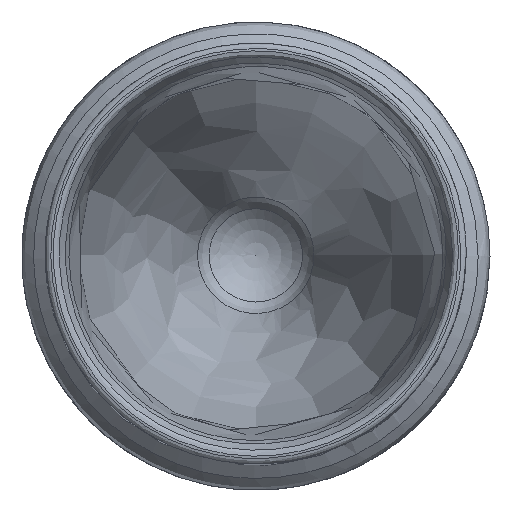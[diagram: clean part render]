
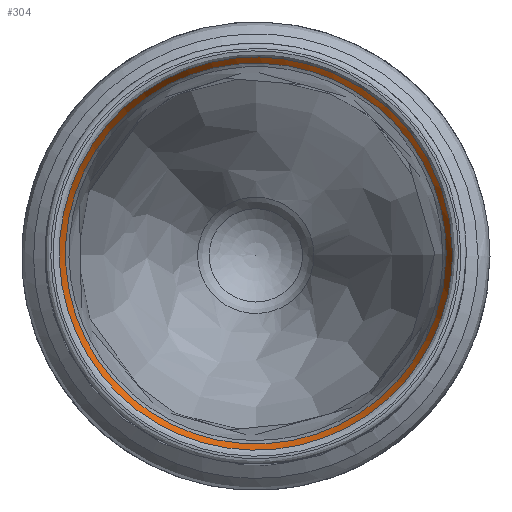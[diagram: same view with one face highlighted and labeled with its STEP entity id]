
A CAD part, top view. The second image highlights one B-rep face of the part: STEP entity #304.
In plain terms, the highlighted free-form (B-spline) face has degree [1, 3] with [2, 18] control points.
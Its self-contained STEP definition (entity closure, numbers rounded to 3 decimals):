
#304=ADVANCED_FACE('',(#332,#333),#313,.T.);
#313=B_SPLINE_SURFACE_WITH_KNOTS('',1,3,((#4549,#4550,#4551,#4552,#4553,
#4554,#4555,#4556,#4557,#4558,#4559,#4560,#4561,#4562,#4563,#4564,#4565,
#4566),(#4567,#4568,#4569,#4570,#4571,#4572,#4573,#4574,#4575,#4576,#4577,
#4578,#4579,#4580,#4581,#4582,#4583,#4584)),.UNSPECIFIED.,.F.,.T.,.F.,(2,
2),(2,2,2,2,2,2,2,2,2,2,2),(0.,1.),(-0.125,0.,0.125,0.25,0.375,0.5,0.625,
0.75,0.875,1.,1.125),.UNSPECIFIED.);
#332=FACE_BOUND('',#397,.T.);
#333=FACE_BOUND('',#398,.T.);
#397=EDGE_LOOP('',(#605));
#398=EDGE_LOOP('',(#606));
#605=ORIENTED_EDGE('',*,*,#786,.T.);
#606=ORIENTED_EDGE('',*,*,#787,.T.);
#682=VERTEX_POINT('',#4519);
#683=VERTEX_POINT('',#4548);
#786=EDGE_CURVE('',#682,#682,#844,.T.);
#787=EDGE_CURVE('',#683,#683,#845,.T.);
#844=B_SPLINE_CURVE_WITH_KNOTS('',3,(#4485,#4486,#4487,#4488,#4489,#4490,
#4491,#4492,#4493,#4494,#4495,#4496,#4497,#4498,#4499,#4500,#4501,#4502,
#4503,#4504,#4505,#4506,#4507,#4508,#4509,#4510,#4511,#4512,#4513,#4514,
#4515,#4516,#4517,#4518),.UNSPECIFIED.,.T.,.F.,(2,2,2,2,2,2,2,2,2,2,2,2,
2,2,2,2,2,2,2),(-0.062,0.,0.063,0.125,0.188,0.25,
0.313,0.375,0.438,0.5,
0.563,0.625,0.688,0.75,0.813,0.875,
0.938,1.,1.063),.UNSPECIFIED.);
#845=B_SPLINE_CURVE_WITH_KNOTS('',3,(#4520,#4521,#4522,#4523,#4524,#4525,
#4526,#4527,#4528,#4529,#4530,#4531,#4532,#4533,#4534,#4535,#4536,#4537,
#4538,#4539,#4540,#4541,#4542,#4543,#4544,#4545,#4546,#4547),
 .UNSPECIFIED.,.T.,.F.,(2,2,2,2,2,2,2,2,2,2,2,2,2,2,2,2),(-0.063,0.,0.125,
0.188,0.25,0.313,0.375,0.5,0.563,0.625,0.75,0.813,0.875,0.938,1.,1.125),
 .UNSPECIFIED.);
#4485=CARTESIAN_POINT('',(22.332,2.952,177.993));
#4486=CARTESIAN_POINT('',(22.333,-2.947,178.002));
#4487=CARTESIAN_POINT('',(21.746,-5.876,178.057));
#4488=CARTESIAN_POINT('',(19.514,-11.249,178.05));
#4489=CARTESIAN_POINT('',(17.85,-13.734,177.996));
#4490=CARTESIAN_POINT('',(13.723,-17.859,177.999));
#4491=CARTESIAN_POINT('',(11.257,-19.513,178.054));
#4492=CARTESIAN_POINT('',(5.835,-21.76,178.06));
#4493=CARTESIAN_POINT('',(2.936,-22.333,178.003));
#4494=CARTESIAN_POINT('',(-2.943,-22.331,177.992));
#4495=CARTESIAN_POINT('',(-5.853,-21.752,178.044));
#4496=CARTESIAN_POINT('',(-11.246,-19.517,178.041));
#4497=CARTESIAN_POINT('',(-13.727,-17.854,177.992));
#4498=CARTESIAN_POINT('',(-17.845,-13.74,178.003));
#4499=CARTESIAN_POINT('',(-19.513,-11.254,178.049));
#4500=CARTESIAN_POINT('',(-21.752,-5.858,178.049));
#4501=CARTESIAN_POINT('',(-22.334,-2.94,177.998));
#4502=CARTESIAN_POINT('',(-22.331,2.959,177.997));
#4503=CARTESIAN_POINT('',(-21.747,5.875,178.047));
#4504=CARTESIAN_POINT('',(-19.508,11.261,178.046));
#4505=CARTESIAN_POINT('',(-17.842,13.743,177.999));
#4506=CARTESIAN_POINT('',(-13.725,17.856,177.996));
#4507=CARTESIAN_POINT('',(-11.234,19.522,178.047));
#4508=CARTESIAN_POINT('',(-5.861,21.749,178.051));
#4509=CARTESIAN_POINT('',(-2.928,22.331,177.997));
#4510=CARTESIAN_POINT('',(2.908,22.334,177.997));
#4511=CARTESIAN_POINT('',(5.821,21.764,178.056));
#4512=CARTESIAN_POINT('',(11.248,19.519,178.056));
#4513=CARTESIAN_POINT('',(13.705,17.876,178.003));
#4514=CARTESIAN_POINT('',(17.862,13.722,177.992));
#4515=CARTESIAN_POINT('',(19.511,11.255,178.042));
#4516=CARTESIAN_POINT('',(21.749,5.864,178.045));
#4517=CARTESIAN_POINT('',(22.332,2.952,177.993));
#4518=CARTESIAN_POINT('',(22.333,-2.947,178.002));
#4519=CARTESIAN_POINT('',(22.332,0.002,177.997));
#4520=CARTESIAN_POINT('',(23.065,-3.046,179.674));
#4521=CARTESIAN_POINT('',(23.07,6.092,179.674));
#4522=CARTESIAN_POINT('',(20.561,12.071,179.674));
#4523=CARTESIAN_POINT('',(14.173,18.444,179.674));
#4524=CARTESIAN_POINT('',(11.603,20.139,179.676));
#4525=CARTESIAN_POINT('',(6.015,22.452,179.676));
#4526=CARTESIAN_POINT('',(3.028,23.069,179.674));
#4527=CARTESIAN_POINT('',(-3.062,23.065,179.674));
#4528=CARTESIAN_POINT('',(-6.045,22.446,179.676));
#4529=CARTESIAN_POINT('',(-11.629,20.128,179.675));
#4530=CARTESIAN_POINT('',(-14.199,18.426,179.674));
#4531=CARTESIAN_POINT('',(-20.567,12.047,179.674));
#4532=CARTESIAN_POINT('',(-23.074,6.066,179.674));
#4533=CARTESIAN_POINT('',(-23.063,-3.069,179.674));
#4534=CARTESIAN_POINT('',(-22.442,-6.061,179.676));
#4535=CARTESIAN_POINT('',(-20.124,-11.633,179.676));
#4536=CARTESIAN_POINT('',(-18.418,-14.205,179.674));
#4537=CARTESIAN_POINT('',(-12.05,-20.569,179.674));
#4538=CARTESIAN_POINT('',(-6.021,-23.069,179.674));
#4539=CARTESIAN_POINT('',(2.997,-23.066,179.674));
#4540=CARTESIAN_POINT('',(6.012,-22.451,179.676));
#4541=CARTESIAN_POINT('',(11.602,-20.141,179.676));
#4542=CARTESIAN_POINT('',(14.153,-18.466,179.674));
#4543=CARTESIAN_POINT('',(18.456,-14.168,179.674));
#4544=CARTESIAN_POINT('',(20.13,-11.622,179.676));
#4545=CARTESIAN_POINT('',(22.444,-6.042,179.676));
#4546=CARTESIAN_POINT('',(23.065,-3.046,179.674));
#4547=CARTESIAN_POINT('',(23.07,6.092,179.674));
#4548=CARTESIAN_POINT('',(23.067,0.,179.674));
#4549=CARTESIAN_POINT('',(23.273,6.095,180.137));
#4550=CARTESIAN_POINT('',(23.266,-6.095,180.137));
#4551=CARTESIAN_POINT('',(20.771,-12.138,180.137));
#4552=CARTESIAN_POINT('',(12.138,-20.769,180.137));
#4553=CARTESIAN_POINT('',(6.094,-23.266,180.137));
#4554=CARTESIAN_POINT('',(-6.1,-23.273,180.137));
#4555=CARTESIAN_POINT('',(-12.136,-20.773,180.137));
#4556=CARTESIAN_POINT('',(-20.754,-12.153,180.137));
#4557=CARTESIAN_POINT('',(-23.267,-6.134,180.137));
#4558=CARTESIAN_POINT('',(-23.272,6.12,180.137));
#4559=CARTESIAN_POINT('',(-20.761,12.15,180.137));
#4560=CARTESIAN_POINT('',(-12.131,20.774,180.137));
#4561=CARTESIAN_POINT('',(-6.091,23.273,180.137));
#4562=CARTESIAN_POINT('',(6.117,23.266,180.137));
#4563=CARTESIAN_POINT('',(12.154,20.754,180.137));
#4564=CARTESIAN_POINT('',(20.776,12.133,180.137));
#4565=CARTESIAN_POINT('',(23.273,6.095,180.137));
#4566=CARTESIAN_POINT('',(23.266,-6.095,180.137));
#4567=CARTESIAN_POINT('',(22.,5.762,177.233));
#4568=CARTESIAN_POINT('',(21.994,-5.762,177.233));
#4569=CARTESIAN_POINT('',(19.635,-11.475,177.233));
#4570=CARTESIAN_POINT('',(11.475,-19.633,177.232));
#4571=CARTESIAN_POINT('',(5.761,-21.994,177.233));
#4572=CARTESIAN_POINT('',(-5.766,-22.001,177.233));
#4573=CARTESIAN_POINT('',(-11.472,-19.637,177.233));
#4574=CARTESIAN_POINT('',(-19.62,-11.488,177.233));
#4575=CARTESIAN_POINT('',(-21.995,-5.798,177.233));
#4576=CARTESIAN_POINT('',(-21.999,5.785,177.233));
#4577=CARTESIAN_POINT('',(-19.625,11.486,177.233));
#4578=CARTESIAN_POINT('',(-11.468,19.638,177.233));
#4579=CARTESIAN_POINT('',(-5.757,22.001,177.233));
#4580=CARTESIAN_POINT('',(5.782,21.994,177.233));
#4581=CARTESIAN_POINT('',(11.489,19.619,177.232));
#4582=CARTESIAN_POINT('',(19.639,11.47,177.233));
#4583=CARTESIAN_POINT('',(22.,5.762,177.233));
#4584=CARTESIAN_POINT('',(21.994,-5.762,177.233));
